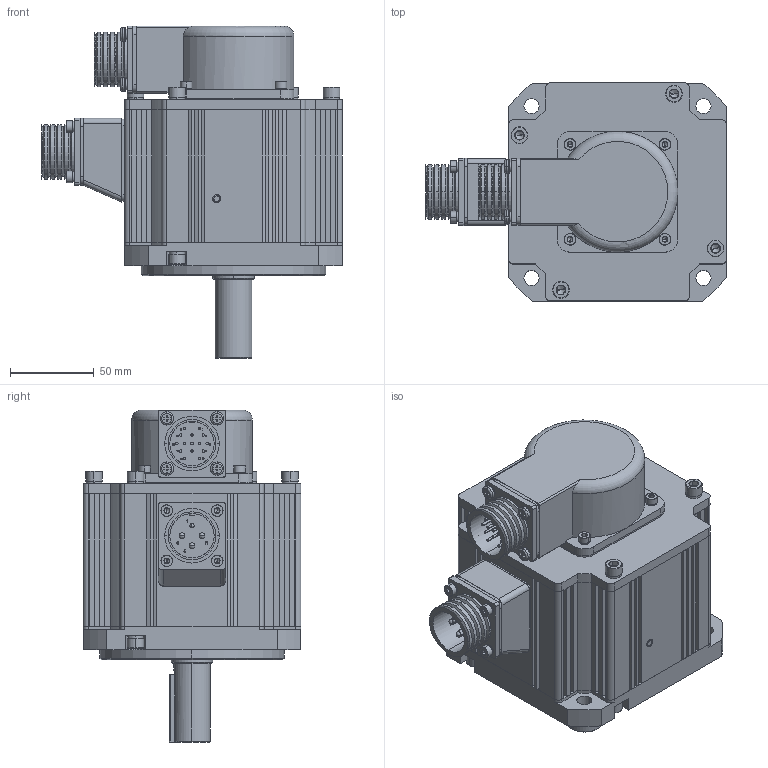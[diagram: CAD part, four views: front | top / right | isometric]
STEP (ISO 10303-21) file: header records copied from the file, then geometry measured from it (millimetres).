
FILE_DESCRIPTION((''),'2;1');
FILE_NAME('SV-MM13-1R0E-X-XA0-1000_ASM_ASM','2019-12-11T',('JWDQ'),(''),'CREO PARAMETRIC BY PTC INC, 2014050','CREO PARAMETRIC BY PTC INC, 2014050','');
FILE_SCHEMA(('CONFIG_CONTROL_DESIGN'));
Products named in the file (29): SV130PT-JK_4; 046770000100_2_1_2; 80750004_1_1_2_3_4_5_6_7_8_9_10; 78400020_1_1_2_3_4_5_6_7_8_9_10; GBT93-4_4; GBT7R1-4X35_1_1_2_3_4_5_6_7_8; 513704090100_1_1_2_3_4_5_6_7_10; S-YD28-4_ASM_1_1_2_3_4_5_6_7_8_ASM; SV130PT-DZ_ASM_3_ASM; SV130PT-ZHOU_14_AF0; SV130PT-HG_2_1; SV130DGL-HG_ASM_3_ASM; SV130PT-ZHUANZ_ASM_9_AF0_ASM; 80100007_1_1_2_3_4_5_6_7_8_9_10; 730030000200_1_1_2_3_4_5_6_7_10; SV130-QG_ASM_1_1_2_3_4_5_6_7_8_ASM; GBT1095-6X6-41_5; 82340004_1_1_2_3_4_5_6_7_8_9_10; 046770000100_2; 513715090100_1_1_2_3_4_5_6_7_10; 78400019_1_1_2_3_4_5_6_7_8_9_10; GBT70R1-4X12_1_1_2_3_4_5_6_7_8; M4X16_1_1_2_3_4_5_6_7_8_9_10; TS5214_ASM_2_1_2_ASM; GBT93-6_1_1_2_3_4_5_6_7_8; GBT7R1-M6X16_1_1_2_3_4_5_6_7_8; GBT119R1-5X8_1_1_2_3; SV130PT_ASM_14_AF0_ASM; SV-MM13-1R0E-X-XA0-1000_ASM_ASM
Assembly tree (61 placements, depth 5):
  SV-MM13-1R0E-X-XA0-1000_ASM_ASM
    SV130PT_ASM_14_AF0_ASM
      SV130PT-DZ_ASM_3_ASM
        SV130PT-JK_4
        S-YD28-4_ASM_1_1_2_3_4_5_6_7_8_ASM
          046770000100_2_1_2
          80750004_1_1_2_3_4_5_6_7_8_9_10
          78400020_1_1_2_3_4_5_6_7_8_9_10
          GBT93-4_4  x4
          GBT7R1-4X35_1_1_2_3_4_5_6_7_8  x4
          513704090100_1_1_2_3_4_5_6_7_10
      SV130PT-ZHUANZ_ASM_9_AF0_ASM
        SV130PT-ZHOU_14_AF0
        SV130DGL-HG_ASM_3_ASM
          SV130PT-HG_2_1
      SV130-QG_ASM_1_1_2_3_4_5_6_7_8_ASM
        80100007_1_1_2_3_4_5_6_7_8_9_10
        730030000200_1_1_2_3_4_5_6_7_10
      GBT1095-6X6-41_5
      TS5214_ASM_2_1_2_ASM
        82340004_1_1_2_3_4_5_6_7_8_9_10
        046770000100_2
        513715090100_1_1_2_3_4_5_6_7_10
        78400019_1_1_2_3_4_5_6_7_8_9_10
        GBT93-4_4  x8
        GBT70R1-4X12_1_1_2_3_4_5_6_7_8  x4
        M4X16_1_1_2_3_4_5_6_7_8_9_10  x4
      GBT93-6_1_1_2_3_4_5_6_7_8  x7
      GBT7R1-M6X16_1_1_2_3_4_5_6_7_8  x8
      GBT119R1-5X8_1_1_2_3
Bounding box: 179.5 x 130 x 198 mm (x, y, z)
Volume: 759340.1 mm3; surface area: 320501.3 mm2
Topology: 54 solids, 71 shells, 3165 faces, 8263 edges, 5356 vertices
Faces by surface type: plane 1880, cylinder 765, cone 365, torus 102, bspline 27, sphere 26
Entity records: 99032 total; most frequent: CARTESIAN_POINT 16213, DIRECTION 13860, ORIENTED_EDGE 13618, EDGE_CURVE 6817, VECTOR 4710, LINE 4710, AXIS2_PLACEMENT_3D 4575, VERTEX_POINT 4520
